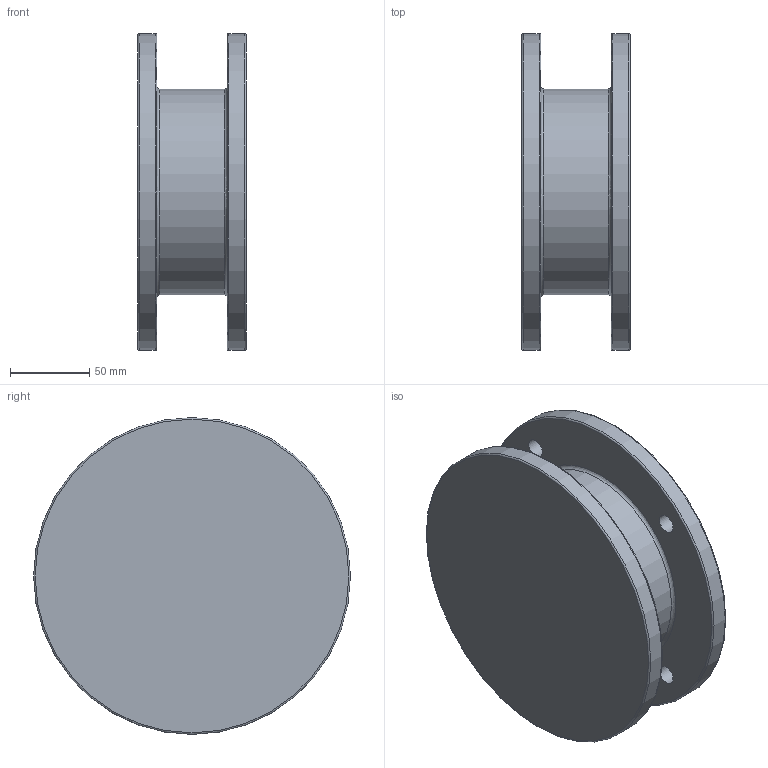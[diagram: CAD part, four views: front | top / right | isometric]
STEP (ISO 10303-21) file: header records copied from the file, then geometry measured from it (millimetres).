
FILE_DESCRIPTION((''),'2;1');
FILE_NAME('F:\PAWEŁ\ZLECENIA\2011 DualSystem\Przekładnie DK\001 Modele\DKAB70_\DK_70-_STEP\80_B5_L68,5.stp','2012-08-20T11:57:08',('admin'),(''),'Autodesk Inventor 2009','Autodesk Inventor 2009','');
FILE_SCHEMA(('AUTOMOTIVE_DESIGN { 1 0 10303 214 1 1 1 1 }'));
Length unit declared in the file: millimetre
Products named in the file (1): 80_B5_L68,5
Bounding box: 68.5 x 200 x 200 mm (x, y, z)
Volume: 749567 mm3; surface area: 161217.9 mm2
Topology: 1 solids, 1 shells, 29 faces, 56 edges, 35 vertices
Faces by surface type: plane 11, cylinder 7, bspline 6, torus 5
Full cylindrical faces by diameter (mm): 35 x1, 118 x1, 130 x2, 200 x2
Entity records: 857 total; most frequent: CARTESIAN_POINT 260, DIRECTION 116, ORIENTED_EDGE 78, EDGE_LOOP 60, AXIS2_PLACEMENT_3D 53, EDGE_CURVE 39, VERTEX_POINT 35, FACE_BOUND 31
